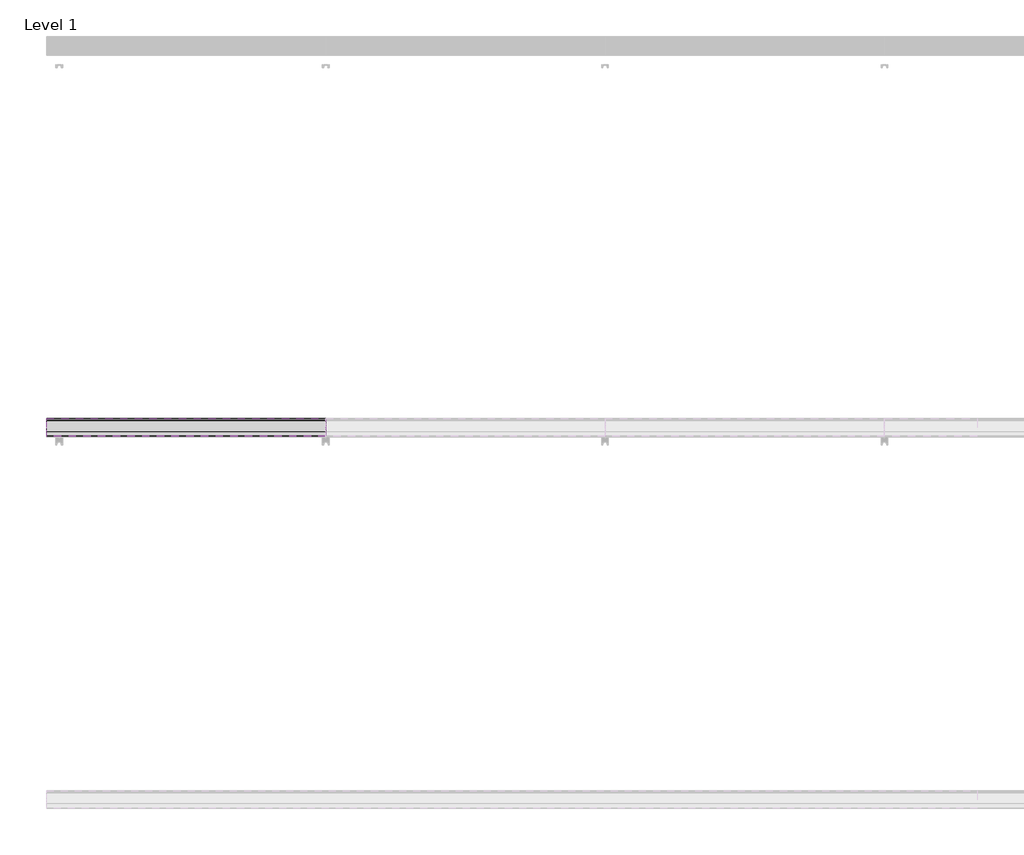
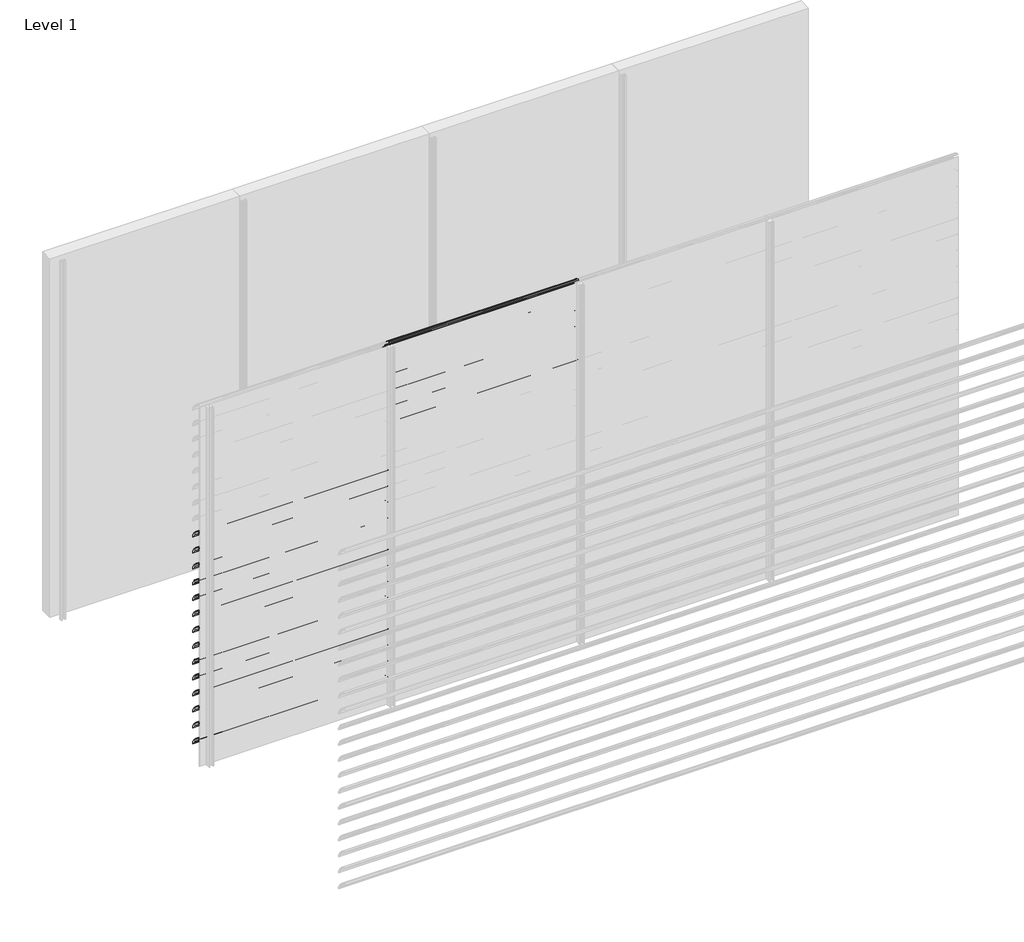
# One storey, part 43 of 57: 20 proxies.
"""IFC4 building model written with IfcOpenShell, lengths in millimetres."""

from ifc_helpers import new_model, si_unit, point, frame, frame_2d, origin, place, context, project, spatial, polyline, circle_curve, trimmed, segment, composite_curve, outline, extrude, element, save

model = new_model("IFC4")

# Units and contexts
model_context = context("Model", 3, world=origin())
ifc_project = project(units=[si_unit("LENGTHUNIT", "METRE", prefix="MILLI")], contexts=[model_context])

# Site, building, storey
site = spatial("IfcSite", under=ifc_project)
building = spatial("IfcBuilding", under=site)
storey = spatial("IfcBuildingStorey", under=building, Name="Level 1", Elevation=0.0)

# Proxies
placement = place(None, origin())
element("IfcBuildingElementProxy", 1, Name="Wall Sweeps", at=placement, inside=storey, context=model_context, shape_type="SweptSolid", body=[
    extrude(outline(composite_curve([segment(trimmed(circle_curve(frame_2d((-11993.7822526, 1952.4913792)), 4.2177474), [point((-11989.6985606, 1953.5462976))], [point((-11993.7822526, 1956.7091266))], False, "CARTESIAN"), True, "CONTINUOUS"), segment(trimmed(circle_curve(frame_2d((-12018.7150834, 1854.2536312)), 105.4456002), [point((-11993.7822526, 1956.7091266))], [point((-11971.7914298, 1948.6832099))], False, "CARTESIAN"), True, "CONTINUOUS"), segment(trimmed(circle_curve(frame_2d((-12061.7199745, 1800.0352476)), 173.7335887), [point((-11971.7914298, 1948.6832099))], [point((-11913.0720121, 1889.9637922))], False, "CARTESIAN"), True, "CONTINUOUS"), segment(trimmed(circle_curve(frame_2d((-12004.9297178, 1838.1860314)), 105.4456002), [point((-11913.0720121, 1889.9637922))], [point((-11903.6249616, 1867.4455765))], False, "CARTESIAN"), True, "CONTINUOUS"), segment(trimmed(circle_curve(frame_2d((-11907.809737, 1866.3307305)), 4.3307305), [point((-11903.6249616, 1867.4455765))], [point((-11909.0769196, 1862.189538))], False, "CARTESIAN"), True, "CONTINUOUS"), segment(polyline([(-11909.0769196, 1862.189538), (-11934.7401984, 1886.9722783)]), True, "CONTINUOUS"), segment(trimmed(circle_curve(frame_2d((-11931.3879574, 1889.2977626)), 4.079877), [point((-11934.7401984, 1886.9722783))], [point((-11930.7310597, 1893.3244091))], False, "CARTESIAN"), True, "CONTINUOUS"), segment(trimmed(circle_curve(frame_2d((-12014.6665585, 1871.2544323)), 86.7885467), [point((-11930.7310597, 1893.3244091))], [point((-11942.3028351, 1919.1683485))], True, "CARTESIAN"), True, "CONTINUOUS"), segment(polyline([(-11942.3028351, 1919.1683485), (-11940.7230099, 1921.9046861)]), True, "CONTINUOUS"), segment(trimmed(circle_curve(frame_2d((-12061.7199745, 1800.0352476)), 171.7335887), [point((-11940.7230099, 1921.9046861))], [point((-11972.7555872, 1946.9289618))], True, "CARTESIAN"), True, "CONTINUOUS"), segment(trimmed(circle_curve(frame_2d((-12018.7150834, 1854.2536312)), 103.4456002), [point((-11972.7555872, 1946.9289618))], [point((-11989.6985606, 1953.5462976))], True, "CARTESIAN"), True, "CONTINUOUS")], self_intersect=False)), frame((0.0, 0.0, 0.0), z_axis=(1.0, 0.0, 0.0), x_axis=(0.0, 1.0, 0.0)), (0.0, 0.0, 1.0), 1500.0),
])
element("IfcBuildingElementProxy", 2, Name="Wall Sweeps", at=placement, inside=storey, context=model_context, shape_type="SweptSolid", body=[
    extrude(outline(composite_curve([segment(trimmed(circle_curve(frame_2d((-11993.7822526, 1819.4913792)), 4.2177474), [point((-11989.6985606, 1820.5462976))], [point((-11993.7822526, 1823.7091266))], False, "CARTESIAN"), True, "CONTINUOUS"), segment(trimmed(circle_curve(frame_2d((-12018.7150834, 1721.2536312)), 105.4456002), [point((-11993.7822526, 1823.7091266))], [point((-11971.7914298, 1815.6832099))], False, "CARTESIAN"), True, "CONTINUOUS"), segment(trimmed(circle_curve(frame_2d((-12061.7199745, 1667.0352476)), 173.7335887), [point((-11971.7914298, 1815.6832099))], [point((-11913.0720121, 1756.9637922))], False, "CARTESIAN"), True, "CONTINUOUS"), segment(trimmed(circle_curve(frame_2d((-12004.9297178, 1705.1860314)), 105.4456002), [point((-11913.0720121, 1756.9637922))], [point((-11903.6249616, 1734.4455765))], False, "CARTESIAN"), True, "CONTINUOUS"), segment(trimmed(circle_curve(frame_2d((-11907.809737, 1733.3307305)), 4.3307305), [point((-11903.6249616, 1734.4455765))], [point((-11909.0769196, 1729.189538))], False, "CARTESIAN"), True, "CONTINUOUS"), segment(polyline([(-11909.0769196, 1729.189538), (-11934.7401984, 1753.9722783)]), True, "CONTINUOUS"), segment(trimmed(circle_curve(frame_2d((-11931.3879574, 1756.2977626)), 4.079877), [point((-11934.7401984, 1753.9722783))], [point((-11930.7310597, 1760.3244091))], False, "CARTESIAN"), True, "CONTINUOUS"), segment(trimmed(circle_curve(frame_2d((-12014.6665585, 1738.2544323)), 86.7885467), [point((-11930.7310597, 1760.3244091))], [point((-11942.3028351, 1786.1683485))], True, "CARTESIAN"), True, "CONTINUOUS"), segment(polyline([(-11942.3028351, 1786.1683485), (-11940.7230099, 1788.9046861)]), True, "CONTINUOUS"), segment(trimmed(circle_curve(frame_2d((-12061.7199745, 1667.0352476)), 171.7335887), [point((-11940.7230099, 1788.9046861))], [point((-11972.7555872, 1813.9289618))], True, "CARTESIAN"), True, "CONTINUOUS"), segment(trimmed(circle_curve(frame_2d((-12018.7150834, 1721.2536312)), 103.4456002), [point((-11972.7555872, 1813.9289618))], [point((-11989.6985606, 1820.5462976))], True, "CARTESIAN"), True, "CONTINUOUS")], self_intersect=False)), frame((0.0, 0.0, 0.0), z_axis=(1.0, 0.0, 0.0), x_axis=(0.0, 1.0, 0.0)), (0.0, 0.0, 1.0), 1500.0),
])
element("IfcBuildingElementProxy", 3, Name="Wall Sweeps", at=placement, inside=storey, context=model_context, shape_type="SweptSolid", body=[
    extrude(outline(composite_curve([segment(trimmed(circle_curve(frame_2d((-11993.7822526, 1686.4913792)), 4.2177474), [point((-11989.6985606, 1687.5462976))], [point((-11993.7822526, 1690.7091266))], False, "CARTESIAN"), True, "CONTINUOUS"), segment(trimmed(circle_curve(frame_2d((-12018.7150834, 1588.2536312)), 105.4456002), [point((-11993.7822526, 1690.7091266))], [point((-11971.7914298, 1682.6832099))], False, "CARTESIAN"), True, "CONTINUOUS"), segment(trimmed(circle_curve(frame_2d((-12061.7199745, 1534.0352476)), 173.7335887), [point((-11971.7914298, 1682.6832099))], [point((-11913.0720121, 1623.9637922))], False, "CARTESIAN"), True, "CONTINUOUS"), segment(trimmed(circle_curve(frame_2d((-12004.9297178, 1572.1860314)), 105.4456002), [point((-11913.0720121, 1623.9637922))], [point((-11903.6249616, 1601.4455765))], False, "CARTESIAN"), True, "CONTINUOUS"), segment(trimmed(circle_curve(frame_2d((-11907.809737, 1600.3307305)), 4.3307305), [point((-11903.6249616, 1601.4455765))], [point((-11909.0769196, 1596.189538))], False, "CARTESIAN"), True, "CONTINUOUS"), segment(polyline([(-11909.0769196, 1596.189538), (-11934.7401984, 1620.9722783)]), True, "CONTINUOUS"), segment(trimmed(circle_curve(frame_2d((-11931.3879574, 1623.2977626)), 4.079877), [point((-11934.7401984, 1620.9722783))], [point((-11930.7310597, 1627.3244091))], False, "CARTESIAN"), True, "CONTINUOUS"), segment(trimmed(circle_curve(frame_2d((-12014.6665585, 1605.2544323)), 86.7885467), [point((-11930.7310597, 1627.3244091))], [point((-11942.3028351, 1653.1683485))], True, "CARTESIAN"), True, "CONTINUOUS"), segment(polyline([(-11942.3028351, 1653.1683485), (-11940.7230099, 1655.9046861)]), True, "CONTINUOUS"), segment(trimmed(circle_curve(frame_2d((-12061.7199745, 1534.0352476)), 171.7335887), [point((-11940.7230099, 1655.9046861))], [point((-11972.7555872, 1680.9289618))], True, "CARTESIAN"), True, "CONTINUOUS"), segment(trimmed(circle_curve(frame_2d((-12018.7150834, 1588.2536312)), 103.4456002), [point((-11972.7555872, 1680.9289618))], [point((-11989.6985606, 1687.5462976))], True, "CARTESIAN"), True, "CONTINUOUS")], self_intersect=False)), frame((0.0, 0.0, 0.0), z_axis=(1.0, 0.0, 0.0), x_axis=(0.0, 1.0, 0.0)), (0.0, 0.0, 1.0), 1500.0),
])
element("IfcBuildingElementProxy", 4, Name="Wall Sweeps", at=placement, inside=storey, context=model_context, shape_type="SweptSolid", body=[
    extrude(outline(composite_curve([segment(trimmed(circle_curve(frame_2d((-11993.7822526, 1553.4913792)), 4.2177474), [point((-11989.6985606, 1554.5462976))], [point((-11993.7822526, 1557.7091266))], False, "CARTESIAN"), True, "CONTINUOUS"), segment(trimmed(circle_curve(frame_2d((-12018.7150834, 1455.2536312)), 105.4456002), [point((-11993.7822526, 1557.7091266))], [point((-11971.7914298, 1549.6832099))], False, "CARTESIAN"), True, "CONTINUOUS"), segment(trimmed(circle_curve(frame_2d((-12061.7199745, 1401.0352476)), 173.7335887), [point((-11971.7914298, 1549.6832099))], [point((-11913.0720121, 1490.9637922))], False, "CARTESIAN"), True, "CONTINUOUS"), segment(trimmed(circle_curve(frame_2d((-12004.9297178, 1439.1860314)), 105.4456002), [point((-11913.0720121, 1490.9637922))], [point((-11903.6249616, 1468.4455765))], False, "CARTESIAN"), True, "CONTINUOUS"), segment(trimmed(circle_curve(frame_2d((-11907.809737, 1467.3307305)), 4.3307305), [point((-11903.6249616, 1468.4455765))], [point((-11909.0769196, 1463.189538))], False, "CARTESIAN"), True, "CONTINUOUS"), segment(polyline([(-11909.0769196, 1463.189538), (-11934.7401984, 1487.9722783)]), True, "CONTINUOUS"), segment(trimmed(circle_curve(frame_2d((-11931.3879574, 1490.2977626)), 4.079877), [point((-11934.7401984, 1487.9722783))], [point((-11930.7310597, 1494.3244091))], False, "CARTESIAN"), True, "CONTINUOUS"), segment(trimmed(circle_curve(frame_2d((-12014.6665585, 1472.2544323)), 86.7885467), [point((-11930.7310597, 1494.3244091))], [point((-11942.3028351, 1520.1683485))], True, "CARTESIAN"), True, "CONTINUOUS"), segment(polyline([(-11942.3028351, 1520.1683485), (-11940.7230099, 1522.9046861)]), True, "CONTINUOUS"), segment(trimmed(circle_curve(frame_2d((-12061.7199745, 1401.0352476)), 171.7335887), [point((-11940.7230099, 1522.9046861))], [point((-11972.7555872, 1547.9289618))], True, "CARTESIAN"), True, "CONTINUOUS"), segment(trimmed(circle_curve(frame_2d((-12018.7150834, 1455.2536312)), 103.4456002), [point((-11972.7555872, 1547.9289618))], [point((-11989.6985606, 1554.5462976))], True, "CARTESIAN"), True, "CONTINUOUS")], self_intersect=False)), frame((0.0, 0.0, 0.0), z_axis=(1.0, 0.0, 0.0), x_axis=(0.0, 1.0, 0.0)), (0.0, 0.0, 1.0), 1500.0),
])
element("IfcBuildingElementProxy", 5, Name="Wall Sweeps", at=placement, inside=storey, context=model_context, shape_type="SweptSolid", body=[
    extrude(outline(composite_curve([segment(trimmed(circle_curve(frame_2d((-11993.7822526, 1420.4913792)), 4.2177474), [point((-11989.6985606, 1421.5462976))], [point((-11993.7822526, 1424.7091266))], False, "CARTESIAN"), True, "CONTINUOUS"), segment(trimmed(circle_curve(frame_2d((-12018.7150834, 1322.2536312)), 105.4456002), [point((-11993.7822526, 1424.7091266))], [point((-11971.7914298, 1416.6832099))], False, "CARTESIAN"), True, "CONTINUOUS"), segment(trimmed(circle_curve(frame_2d((-12061.7199745, 1268.0352476)), 173.7335887), [point((-11971.7914298, 1416.6832099))], [point((-11913.0720121, 1357.9637922))], False, "CARTESIAN"), True, "CONTINUOUS"), segment(trimmed(circle_curve(frame_2d((-12004.9297178, 1306.1860314)), 105.4456002), [point((-11913.0720121, 1357.9637922))], [point((-11903.6249616, 1335.4455765))], False, "CARTESIAN"), True, "CONTINUOUS"), segment(trimmed(circle_curve(frame_2d((-11907.809737, 1334.3307305)), 4.3307305), [point((-11903.6249616, 1335.4455765))], [point((-11909.0769196, 1330.189538))], False, "CARTESIAN"), True, "CONTINUOUS"), segment(polyline([(-11909.0769196, 1330.189538), (-11934.7401984, 1354.9722783)]), True, "CONTINUOUS"), segment(trimmed(circle_curve(frame_2d((-11931.3879574, 1357.2977626)), 4.079877), [point((-11934.7401984, 1354.9722783))], [point((-11930.7310597, 1361.3244091))], False, "CARTESIAN"), True, "CONTINUOUS"), segment(trimmed(circle_curve(frame_2d((-12014.6665585, 1339.2544323)), 86.7885467), [point((-11930.7310597, 1361.3244091))], [point((-11942.3028351, 1387.1683485))], True, "CARTESIAN"), True, "CONTINUOUS"), segment(polyline([(-11942.3028351, 1387.1683485), (-11940.7230099, 1389.9046861)]), True, "CONTINUOUS"), segment(trimmed(circle_curve(frame_2d((-12061.7199745, 1268.0352476)), 171.7335887), [point((-11940.7230099, 1389.9046861))], [point((-11972.7555872, 1414.9289618))], True, "CARTESIAN"), True, "CONTINUOUS"), segment(trimmed(circle_curve(frame_2d((-12018.7150834, 1322.2536312)), 103.4456002), [point((-11972.7555872, 1414.9289618))], [point((-11989.6985606, 1421.5462976))], True, "CARTESIAN"), True, "CONTINUOUS")], self_intersect=False)), frame((0.0, 0.0, 0.0), z_axis=(1.0, 0.0, 0.0), x_axis=(0.0, 1.0, 0.0)), (0.0, 0.0, 1.0), 1500.0),
])
element("IfcBuildingElementProxy", 6, Name="Wall Sweeps", at=placement, inside=storey, context=model_context, shape_type="SweptSolid", body=[
    extrude(outline(composite_curve([segment(trimmed(circle_curve(frame_2d((-11993.7822526, 1287.4913792)), 4.2177474), [point((-11989.6985606, 1288.5462976))], [point((-11993.7822526, 1291.7091266))], False, "CARTESIAN"), True, "CONTINUOUS"), segment(trimmed(circle_curve(frame_2d((-12018.7150834, 1189.2536312)), 105.4456002), [point((-11993.7822526, 1291.7091266))], [point((-11971.7914298, 1283.6832099))], False, "CARTESIAN"), True, "CONTINUOUS"), segment(trimmed(circle_curve(frame_2d((-12061.7199745, 1135.0352476)), 173.7335887), [point((-11971.7914298, 1283.6832099))], [point((-11913.0720121, 1224.9637922))], False, "CARTESIAN"), True, "CONTINUOUS"), segment(trimmed(circle_curve(frame_2d((-12004.9297178, 1173.1860314)), 105.4456002), [point((-11913.0720121, 1224.9637922))], [point((-11903.6249616, 1202.4455765))], False, "CARTESIAN"), True, "CONTINUOUS"), segment(trimmed(circle_curve(frame_2d((-11907.809737, 1201.3307305)), 4.3307305), [point((-11903.6249616, 1202.4455765))], [point((-11909.0769196, 1197.189538))], False, "CARTESIAN"), True, "CONTINUOUS"), segment(polyline([(-11909.0769196, 1197.189538), (-11934.7401984, 1221.9722783)]), True, "CONTINUOUS"), segment(trimmed(circle_curve(frame_2d((-11931.3879574, 1224.2977626)), 4.079877), [point((-11934.7401984, 1221.9722783))], [point((-11930.7310597, 1228.3244091))], False, "CARTESIAN"), True, "CONTINUOUS"), segment(trimmed(circle_curve(frame_2d((-12014.6665585, 1206.2544323)), 86.7885467), [point((-11930.7310597, 1228.3244091))], [point((-11942.3028351, 1254.1683485))], True, "CARTESIAN"), True, "CONTINUOUS"), segment(polyline([(-11942.3028351, 1254.1683485), (-11940.7230099, 1256.9046861)]), True, "CONTINUOUS"), segment(trimmed(circle_curve(frame_2d((-12061.7199745, 1135.0352476)), 171.7335887), [point((-11940.7230099, 1256.9046861))], [point((-11972.7555872, 1281.9289618))], True, "CARTESIAN"), True, "CONTINUOUS"), segment(trimmed(circle_curve(frame_2d((-12018.7150834, 1189.2536312)), 103.4456002), [point((-11972.7555872, 1281.9289618))], [point((-11989.6985606, 1288.5462976))], True, "CARTESIAN"), True, "CONTINUOUS")], self_intersect=False)), frame((0.0, 0.0, 0.0), z_axis=(1.0, 0.0, 0.0), x_axis=(0.0, 1.0, 0.0)), (0.0, 0.0, 1.0), 1500.0),
])
element("IfcBuildingElementProxy", 7, Name="Wall Sweeps", at=placement, inside=storey, context=model_context, shape_type="SweptSolid", body=[
    extrude(outline(composite_curve([segment(trimmed(circle_curve(frame_2d((-11993.7822526, 1154.4913792)), 4.2177474), [point((-11989.6985606, 1155.5462976))], [point((-11993.7822526, 1158.7091266))], False, "CARTESIAN"), True, "CONTINUOUS"), segment(trimmed(circle_curve(frame_2d((-12018.7150834, 1056.2536312)), 105.4456002), [point((-11993.7822526, 1158.7091266))], [point((-11971.7914298, 1150.6832099))], False, "CARTESIAN"), True, "CONTINUOUS"), segment(trimmed(circle_curve(frame_2d((-12061.7199745, 1002.0352476)), 173.7335887), [point((-11971.7914298, 1150.6832099))], [point((-11913.0720121, 1091.9637922))], False, "CARTESIAN"), True, "CONTINUOUS"), segment(trimmed(circle_curve(frame_2d((-12004.9297178, 1040.1860314)), 105.4456002), [point((-11913.0720121, 1091.9637922))], [point((-11903.6249616, 1069.4455765))], False, "CARTESIAN"), True, "CONTINUOUS"), segment(trimmed(circle_curve(frame_2d((-11907.809737, 1068.3307305)), 4.3307305), [point((-11903.6249616, 1069.4455765))], [point((-11909.0769196, 1064.189538))], False, "CARTESIAN"), True, "CONTINUOUS"), segment(polyline([(-11909.0769196, 1064.189538), (-11934.7401984, 1088.9722783)]), True, "CONTINUOUS"), segment(trimmed(circle_curve(frame_2d((-11931.3879574, 1091.2977626)), 4.079877), [point((-11934.7401984, 1088.9722783))], [point((-11930.7310597, 1095.3244091))], False, "CARTESIAN"), True, "CONTINUOUS"), segment(trimmed(circle_curve(frame_2d((-12014.6665585, 1073.2544323)), 86.7885467), [point((-11930.7310597, 1095.3244091))], [point((-11942.3028351, 1121.1683485))], True, "CARTESIAN"), True, "CONTINUOUS"), segment(polyline([(-11942.3028351, 1121.1683485), (-11940.7230099, 1123.9046861)]), True, "CONTINUOUS"), segment(trimmed(circle_curve(frame_2d((-12061.7199745, 1002.0352476)), 171.7335887), [point((-11940.7230099, 1123.9046861))], [point((-11972.7555872, 1148.9289618))], True, "CARTESIAN"), True, "CONTINUOUS"), segment(trimmed(circle_curve(frame_2d((-12018.7150834, 1056.2536312)), 103.4456002), [point((-11972.7555872, 1148.9289618))], [point((-11989.6985606, 1155.5462976))], True, "CARTESIAN"), True, "CONTINUOUS")], self_intersect=False)), frame((0.0, 0.0, 0.0), z_axis=(1.0, 0.0, 0.0), x_axis=(0.0, 1.0, 0.0)), (0.0, 0.0, 1.0), 1500.0),
])
element("IfcBuildingElementProxy", 8, Name="Wall Sweeps", at=placement, inside=storey, context=model_context, shape_type="SweptSolid", body=[
    extrude(outline(composite_curve([segment(trimmed(circle_curve(frame_2d((-11993.7822526, 1021.4913792)), 4.2177474), [point((-11989.6985606, 1022.5462976))], [point((-11993.7822526, 1025.7091266))], False, "CARTESIAN"), True, "CONTINUOUS"), segment(trimmed(circle_curve(frame_2d((-12018.7150834, 923.2536312)), 105.4456002), [point((-11993.7822526, 1025.7091266))], [point((-11971.7914298, 1017.6832099))], False, "CARTESIAN"), True, "CONTINUOUS"), segment(trimmed(circle_curve(frame_2d((-12061.7199745, 869.0352476)), 173.7335887), [point((-11971.7914298, 1017.6832099))], [point((-11913.0720121, 958.9637922))], False, "CARTESIAN"), True, "CONTINUOUS"), segment(trimmed(circle_curve(frame_2d((-12004.9297178, 907.1860314)), 105.4456002), [point((-11913.0720121, 958.9637922))], [point((-11903.6249616, 936.4455765))], False, "CARTESIAN"), True, "CONTINUOUS"), segment(trimmed(circle_curve(frame_2d((-11907.809737, 935.3307305)), 4.3307305), [point((-11903.6249616, 936.4455765))], [point((-11909.0769196, 931.189538))], False, "CARTESIAN"), True, "CONTINUOUS"), segment(polyline([(-11909.0769196, 931.189538), (-11934.7401984, 955.9722783)]), True, "CONTINUOUS"), segment(trimmed(circle_curve(frame_2d((-11931.3879574, 958.2977626)), 4.079877), [point((-11934.7401984, 955.9722783))], [point((-11930.7310597, 962.3244091))], False, "CARTESIAN"), True, "CONTINUOUS"), segment(trimmed(circle_curve(frame_2d((-12014.6665585, 940.2544323)), 86.7885467), [point((-11930.7310597, 962.3244091))], [point((-11942.3028351, 988.1683485))], True, "CARTESIAN"), True, "CONTINUOUS"), segment(polyline([(-11942.3028351, 988.1683485), (-11940.7230099, 990.9046861)]), True, "CONTINUOUS"), segment(trimmed(circle_curve(frame_2d((-12061.7199745, 869.0352476)), 171.7335887), [point((-11940.7230099, 990.9046861))], [point((-11972.7555872, 1015.9289618))], True, "CARTESIAN"), True, "CONTINUOUS"), segment(trimmed(circle_curve(frame_2d((-12018.7150834, 923.2536312)), 103.4456002), [point((-11972.7555872, 1015.9289618))], [point((-11989.6985606, 1022.5462976))], True, "CARTESIAN"), True, "CONTINUOUS")], self_intersect=False)), frame((0.0, 0.0, 0.0), z_axis=(1.0, 0.0, 0.0), x_axis=(0.0, 1.0, 0.0)), (0.0, 0.0, 1.0), 1500.0),
])
element("IfcBuildingElementProxy", 9, Name="Wall Sweeps", at=placement, inside=storey, context=model_context, shape_type="SweptSolid", body=[
    extrude(outline(composite_curve([segment(trimmed(circle_curve(frame_2d((-11993.7822526, 888.4913792)), 4.2177474), [point((-11989.6985606, 889.5462976))], [point((-11993.7822526, 892.7091266))], False, "CARTESIAN"), True, "CONTINUOUS"), segment(trimmed(circle_curve(frame_2d((-12018.7150834, 790.2536312)), 105.4456002), [point((-11993.7822526, 892.7091266))], [point((-11971.7914298, 884.6832099))], False, "CARTESIAN"), True, "CONTINUOUS"), segment(trimmed(circle_curve(frame_2d((-12061.7199745, 736.0352476)), 173.7335887), [point((-11971.7914298, 884.6832099))], [point((-11913.0720121, 825.9637922))], False, "CARTESIAN"), True, "CONTINUOUS"), segment(trimmed(circle_curve(frame_2d((-12004.9297178, 774.1860314)), 105.4456002), [point((-11913.0720121, 825.9637922))], [point((-11903.6249616, 803.4455765))], False, "CARTESIAN"), True, "CONTINUOUS"), segment(trimmed(circle_curve(frame_2d((-11907.809737, 802.3307305)), 4.3307305), [point((-11903.6249616, 803.4455765))], [point((-11909.0769196, 798.189538))], False, "CARTESIAN"), True, "CONTINUOUS"), segment(polyline([(-11909.0769196, 798.189538), (-11934.7401984, 822.9722783)]), True, "CONTINUOUS"), segment(trimmed(circle_curve(frame_2d((-11931.3879574, 825.2977626)), 4.079877), [point((-11934.7401984, 822.9722783))], [point((-11930.7310597, 829.3244091))], False, "CARTESIAN"), True, "CONTINUOUS"), segment(trimmed(circle_curve(frame_2d((-12014.6665585, 807.2544323)), 86.7885467), [point((-11930.7310597, 829.3244091))], [point((-11942.3028351, 855.1683485))], True, "CARTESIAN"), True, "CONTINUOUS"), segment(polyline([(-11942.3028351, 855.1683485), (-11940.7230099, 857.9046861)]), True, "CONTINUOUS"), segment(trimmed(circle_curve(frame_2d((-12061.7199745, 736.0352476)), 171.7335887), [point((-11940.7230099, 857.9046861))], [point((-11972.7555872, 882.9289618))], True, "CARTESIAN"), True, "CONTINUOUS"), segment(trimmed(circle_curve(frame_2d((-12018.7150834, 790.2536312)), 103.4456002), [point((-11972.7555872, 882.9289618))], [point((-11989.6985606, 889.5462976))], True, "CARTESIAN"), True, "CONTINUOUS")], self_intersect=False)), frame((0.0, 0.0, 0.0), z_axis=(1.0, 0.0, 0.0), x_axis=(0.0, 1.0, 0.0)), (0.0, 0.0, 1.0), 1500.0),
])
element("IfcBuildingElementProxy", 10, Name="Wall Sweeps", at=placement, inside=storey, context=model_context, shape_type="SweptSolid", body=[
    extrude(outline(composite_curve([segment(trimmed(circle_curve(frame_2d((-11993.7822526, 755.4913792)), 4.2177474), [point((-11989.6985606, 756.5462976))], [point((-11993.7822526, 759.7091266))], False, "CARTESIAN"), True, "CONTINUOUS"), segment(trimmed(circle_curve(frame_2d((-12018.7150834, 657.2536312)), 105.4456002), [point((-11993.7822526, 759.7091266))], [point((-11971.7914298, 751.6832099))], False, "CARTESIAN"), True, "CONTINUOUS"), segment(trimmed(circle_curve(frame_2d((-12061.7199745, 603.0352476)), 173.7335887), [point((-11971.7914298, 751.6832099))], [point((-11913.0720121, 692.9637922))], False, "CARTESIAN"), True, "CONTINUOUS"), segment(trimmed(circle_curve(frame_2d((-12004.9297178, 641.1860314)), 105.4456002), [point((-11913.0720121, 692.9637922))], [point((-11903.6249616, 670.4455765))], False, "CARTESIAN"), True, "CONTINUOUS"), segment(trimmed(circle_curve(frame_2d((-11907.809737, 669.3307305)), 4.3307305), [point((-11903.6249616, 670.4455765))], [point((-11909.0769196, 665.189538))], False, "CARTESIAN"), True, "CONTINUOUS"), segment(polyline([(-11909.0769196, 665.189538), (-11934.7401984, 689.9722783)]), True, "CONTINUOUS"), segment(trimmed(circle_curve(frame_2d((-11931.3879574, 692.2977626)), 4.079877), [point((-11934.7401984, 689.9722783))], [point((-11930.7310597, 696.3244091))], False, "CARTESIAN"), True, "CONTINUOUS"), segment(trimmed(circle_curve(frame_2d((-12014.6665585, 674.2544323)), 86.7885467), [point((-11930.7310597, 696.3244091))], [point((-11942.3028351, 722.1683485))], True, "CARTESIAN"), True, "CONTINUOUS"), segment(polyline([(-11942.3028351, 722.1683485), (-11940.7230099, 724.9046861)]), True, "CONTINUOUS"), segment(trimmed(circle_curve(frame_2d((-12061.7199745, 603.0352476)), 171.7335887), [point((-11940.7230099, 724.9046861))], [point((-11972.7555872, 749.9289618))], True, "CARTESIAN"), True, "CONTINUOUS"), segment(trimmed(circle_curve(frame_2d((-12018.7150834, 657.2536312)), 103.4456002), [point((-11972.7555872, 749.9289618))], [point((-11989.6985606, 756.5462976))], True, "CARTESIAN"), True, "CONTINUOUS")], self_intersect=False)), frame((0.0, 0.0, 0.0), z_axis=(1.0, 0.0, 0.0), x_axis=(0.0, 1.0, 0.0)), (0.0, 0.0, 1.0), 1500.0),
])
element("IfcBuildingElementProxy", 11, Name="Wall Sweeps", at=placement, inside=storey, context=model_context, shape_type="SweptSolid", body=[
    extrude(outline(composite_curve([segment(trimmed(circle_curve(frame_2d((-11993.7822526, 622.4913792)), 4.2177474), [point((-11989.6985606, 623.5462976))], [point((-11993.7822526, 626.7091266))], False, "CARTESIAN"), True, "CONTINUOUS"), segment(trimmed(circle_curve(frame_2d((-12018.7150834, 524.2536312)), 105.4456002), [point((-11993.7822526, 626.7091266))], [point((-11971.7914298, 618.6832099))], False, "CARTESIAN"), True, "CONTINUOUS"), segment(trimmed(circle_curve(frame_2d((-12061.7199745, 470.0352476)), 173.7335887), [point((-11971.7914298, 618.6832099))], [point((-11913.0720121, 559.9637922))], False, "CARTESIAN"), True, "CONTINUOUS"), segment(trimmed(circle_curve(frame_2d((-12004.9297178, 508.1860314)), 105.4456002), [point((-11913.0720121, 559.9637922))], [point((-11903.6249616, 537.4455765))], False, "CARTESIAN"), True, "CONTINUOUS"), segment(trimmed(circle_curve(frame_2d((-11907.809737, 536.3307305)), 4.3307305), [point((-11903.6249616, 537.4455765))], [point((-11909.0769196, 532.189538))], False, "CARTESIAN"), True, "CONTINUOUS"), segment(polyline([(-11909.0769196, 532.189538), (-11934.7401984, 556.9722783)]), True, "CONTINUOUS"), segment(trimmed(circle_curve(frame_2d((-11931.3879574, 559.2977626)), 4.079877), [point((-11934.7401984, 556.9722783))], [point((-11930.7310597, 563.3244091))], False, "CARTESIAN"), True, "CONTINUOUS"), segment(trimmed(circle_curve(frame_2d((-12014.6665585, 541.2544323)), 86.7885467), [point((-11930.7310597, 563.3244091))], [point((-11942.3028351, 589.1683485))], True, "CARTESIAN"), True, "CONTINUOUS"), segment(polyline([(-11942.3028351, 589.1683485), (-11940.7230099, 591.9046861)]), True, "CONTINUOUS"), segment(trimmed(circle_curve(frame_2d((-12061.7199745, 470.0352476)), 171.7335887), [point((-11940.7230099, 591.9046861))], [point((-11972.7555872, 616.9289618))], True, "CARTESIAN"), True, "CONTINUOUS"), segment(trimmed(circle_curve(frame_2d((-12018.7150834, 524.2536312)), 103.4456002), [point((-11972.7555872, 616.9289618))], [point((-11989.6985606, 623.5462976))], True, "CARTESIAN"), True, "CONTINUOUS")], self_intersect=False)), frame((0.0, 0.0, 0.0), z_axis=(1.0, 0.0, 0.0), x_axis=(0.0, 1.0, 0.0)), (0.0, 0.0, 1.0), 1500.0),
])
element("IfcBuildingElementProxy", 12, Name="Wall Sweeps", at=placement, inside=storey, context=model_context, shape_type="SweptSolid", body=[
    extrude(outline(composite_curve([segment(trimmed(circle_curve(frame_2d((-11993.7822526, 489.4913792)), 4.2177474), [point((-11989.6985606, 490.5462976))], [point((-11993.7822526, 493.7091266))], False, "CARTESIAN"), True, "CONTINUOUS"), segment(trimmed(circle_curve(frame_2d((-12018.7150834, 391.2536312)), 105.4456002), [point((-11993.7822526, 493.7091266))], [point((-11971.7914298, 485.6832099))], False, "CARTESIAN"), True, "CONTINUOUS"), segment(trimmed(circle_curve(frame_2d((-12061.7199745, 337.0352476)), 173.7335887), [point((-11971.7914298, 485.6832099))], [point((-11913.0720121, 426.9637922))], False, "CARTESIAN"), True, "CONTINUOUS"), segment(trimmed(circle_curve(frame_2d((-12004.9297178, 375.1860314)), 105.4456002), [point((-11913.0720121, 426.9637922))], [point((-11903.6249616, 404.4455765))], False, "CARTESIAN"), True, "CONTINUOUS"), segment(trimmed(circle_curve(frame_2d((-11907.809737, 403.3307305)), 4.3307305), [point((-11903.6249616, 404.4455765))], [point((-11909.0769196, 399.189538))], False, "CARTESIAN"), True, "CONTINUOUS"), segment(polyline([(-11909.0769196, 399.189538), (-11934.7401984, 423.9722783)]), True, "CONTINUOUS"), segment(trimmed(circle_curve(frame_2d((-11931.3879574, 426.2977626)), 4.079877), [point((-11934.7401984, 423.9722783))], [point((-11930.7310597, 430.3244091))], False, "CARTESIAN"), True, "CONTINUOUS"), segment(trimmed(circle_curve(frame_2d((-12014.6665585, 408.2544323)), 86.7885467), [point((-11930.7310597, 430.3244091))], [point((-11942.3028351, 456.1683485))], True, "CARTESIAN"), True, "CONTINUOUS"), segment(polyline([(-11942.3028351, 456.1683485), (-11940.7230099, 458.9046861)]), True, "CONTINUOUS"), segment(trimmed(circle_curve(frame_2d((-12061.7199745, 337.0352476)), 171.7335887), [point((-11940.7230099, 458.9046861))], [point((-11972.7555872, 483.9289618))], True, "CARTESIAN"), True, "CONTINUOUS"), segment(trimmed(circle_curve(frame_2d((-12018.7150834, 391.2536312)), 103.4456002), [point((-11972.7555872, 483.9289618))], [point((-11989.6985606, 490.5462976))], True, "CARTESIAN"), True, "CONTINUOUS")], self_intersect=False)), frame((0.0, 0.0, 0.0), z_axis=(1.0, 0.0, 0.0), x_axis=(0.0, 1.0, 0.0)), (0.0, 0.0, 1.0), 1500.0),
])
element("IfcBuildingElementProxy", 13, Name="Wall Sweeps", at=placement, inside=storey, context=model_context, shape_type="SweptSolid", body=[
    extrude(outline(composite_curve([segment(trimmed(circle_curve(frame_2d((-11993.7822526, 356.4913792)), 4.2177474), [point((-11989.6985606, 357.5462976))], [point((-11993.7822526, 360.7091266))], False, "CARTESIAN"), True, "CONTINUOUS"), segment(trimmed(circle_curve(frame_2d((-12018.7150834, 258.2536312)), 105.4456002), [point((-11993.7822526, 360.7091266))], [point((-11971.7914298, 352.6832099))], False, "CARTESIAN"), True, "CONTINUOUS"), segment(trimmed(circle_curve(frame_2d((-12061.7199745, 204.0352476)), 173.7335887), [point((-11971.7914298, 352.6832099))], [point((-11913.0720121, 293.9637922))], False, "CARTESIAN"), True, "CONTINUOUS"), segment(trimmed(circle_curve(frame_2d((-12004.9297178, 242.1860314)), 105.4456002), [point((-11913.0720121, 293.9637922))], [point((-11903.6249616, 271.4455765))], False, "CARTESIAN"), True, "CONTINUOUS"), segment(trimmed(circle_curve(frame_2d((-11907.809737, 270.3307305)), 4.3307305), [point((-11903.6249616, 271.4455765))], [point((-11909.0769196, 266.189538))], False, "CARTESIAN"), True, "CONTINUOUS"), segment(polyline([(-11909.0769196, 266.189538), (-11934.7401984, 290.9722783)]), True, "CONTINUOUS"), segment(trimmed(circle_curve(frame_2d((-11931.3879574, 293.2977626)), 4.079877), [point((-11934.7401984, 290.9722783))], [point((-11930.7310597, 297.3244091))], False, "CARTESIAN"), True, "CONTINUOUS"), segment(trimmed(circle_curve(frame_2d((-12014.6665585, 275.2544323)), 86.7885467), [point((-11930.7310597, 297.3244091))], [point((-11942.3028351, 323.1683485))], True, "CARTESIAN"), True, "CONTINUOUS"), segment(polyline([(-11942.3028351, 323.1683485), (-11940.7230099, 325.9046861)]), True, "CONTINUOUS"), segment(trimmed(circle_curve(frame_2d((-12061.7199745, 204.0352476)), 171.7335887), [point((-11940.7230099, 325.9046861))], [point((-11972.7555872, 350.9289618))], True, "CARTESIAN"), True, "CONTINUOUS"), segment(trimmed(circle_curve(frame_2d((-12018.7150834, 258.2536312)), 103.4456002), [point((-11972.7555872, 350.9289618))], [point((-11989.6985606, 357.5462976))], True, "CARTESIAN"), True, "CONTINUOUS")], self_intersect=False)), frame((0.0, 0.0, 0.0), z_axis=(1.0, 0.0, 0.0), x_axis=(0.0, 1.0, 0.0)), (0.0, 0.0, 1.0), 1500.0),
])
element("IfcBuildingElementProxy", 14, Name="Wall Sweeps", at=placement, inside=storey, context=model_context, shape_type="SweptSolid", body=[
    extrude(outline(composite_curve([segment(trimmed(circle_curve(frame_2d((-11993.7822526, 223.4913792)), 4.2177474), [point((-11989.6985606, 224.5462976))], [point((-11993.7822526, 227.7091266))], False, "CARTESIAN"), True, "CONTINUOUS"), segment(trimmed(circle_curve(frame_2d((-12018.7150834, 125.2536312)), 105.4456002), [point((-11993.7822526, 227.7091266))], [point((-11971.7914298, 219.6832099))], False, "CARTESIAN"), True, "CONTINUOUS"), segment(trimmed(circle_curve(frame_2d((-12061.7199745, 71.0352476)), 173.7335887), [point((-11971.7914298, 219.6832099))], [point((-11913.0720121, 160.9637922))], False, "CARTESIAN"), True, "CONTINUOUS"), segment(trimmed(circle_curve(frame_2d((-12004.9297178, 109.1860314)), 105.4456002), [point((-11913.0720121, 160.9637922))], [point((-11903.6249616, 138.4455765))], False, "CARTESIAN"), True, "CONTINUOUS"), segment(trimmed(circle_curve(frame_2d((-11907.809737, 137.3307305)), 4.3307305), [point((-11903.6249616, 138.4455765))], [point((-11909.0769196, 133.189538))], False, "CARTESIAN"), True, "CONTINUOUS"), segment(polyline([(-11909.0769196, 133.189538), (-11934.7401984, 157.9722783)]), True, "CONTINUOUS"), segment(trimmed(circle_curve(frame_2d((-11931.3879574, 160.2977626)), 4.079877), [point((-11934.7401984, 157.9722783))], [point((-11930.7310597, 164.3244091))], False, "CARTESIAN"), True, "CONTINUOUS"), segment(trimmed(circle_curve(frame_2d((-12014.6665585, 142.2544323)), 86.7885467), [point((-11930.7310597, 164.3244091))], [point((-11942.3028351, 190.1683485))], True, "CARTESIAN"), True, "CONTINUOUS"), segment(polyline([(-11942.3028351, 190.1683485), (-11940.7230099, 192.9046861)]), True, "CONTINUOUS"), segment(trimmed(circle_curve(frame_2d((-12061.7199745, 71.0352476)), 171.7335887), [point((-11940.7230099, 192.9046861))], [point((-11972.7555872, 217.9289618))], True, "CARTESIAN"), True, "CONTINUOUS"), segment(trimmed(circle_curve(frame_2d((-12018.7150834, 125.2536312)), 103.4456002), [point((-11972.7555872, 217.9289618))], [point((-11989.6985606, 224.5462976))], True, "CARTESIAN"), True, "CONTINUOUS")], self_intersect=False)), frame((0.0, 0.0, 0.0), z_axis=(1.0, 0.0, 0.0), x_axis=(0.0, 1.0, 0.0)), (0.0, 0.0, 1.0), 1500.0),
])
element("IfcBuildingElementProxy", 15, Name="Wall Sweeps", at=placement, inside=storey, context=model_context, shape_type="SweptSolid", body=[
    extrude(outline(composite_curve([segment(trimmed(circle_curve(frame_2d((-11993.7822526, 3016.4913792)), 4.2177474), [point((-11989.6985606, 3017.5462976))], [point((-11993.7822526, 3020.7091266))], False, "CARTESIAN"), True, "CONTINUOUS"), segment(trimmed(circle_curve(frame_2d((-12018.7150834, 2918.2536312)), 105.4456002), [point((-11993.7822526, 3020.7091266))], [point((-11971.7914298, 3012.6832099))], False, "CARTESIAN"), True, "CONTINUOUS"), segment(trimmed(circle_curve(frame_2d((-12061.7199745, 2864.0352476)), 173.7335887), [point((-11971.7914298, 3012.6832099))], [point((-11913.0720121, 2953.9637922))], False, "CARTESIAN"), True, "CONTINUOUS"), segment(trimmed(circle_curve(frame_2d((-12004.9297178, 2902.1860314)), 105.4456002), [point((-11913.0720121, 2953.9637922))], [point((-11903.6249616, 2931.4455765))], False, "CARTESIAN"), True, "CONTINUOUS"), segment(trimmed(circle_curve(frame_2d((-11907.809737, 2930.3307305)), 4.3307305), [point((-11903.6249616, 2931.4455765))], [point((-11909.0769196, 2926.189538))], False, "CARTESIAN"), True, "CONTINUOUS"), segment(polyline([(-11909.0769196, 2926.189538), (-11934.7401984, 2950.9722783)]), True, "CONTINUOUS"), segment(trimmed(circle_curve(frame_2d((-11931.3879574, 2953.2977626)), 4.079877), [point((-11934.7401984, 2950.9722783))], [point((-11930.7310597, 2957.3244091))], False, "CARTESIAN"), True, "CONTINUOUS"), segment(trimmed(circle_curve(frame_2d((-12014.6665585, 2935.2544323)), 86.7885467), [point((-11930.7310597, 2957.3244091))], [point((-11942.3028351, 2983.1683485))], True, "CARTESIAN"), True, "CONTINUOUS"), segment(polyline([(-11942.3028351, 2983.1683485), (-11940.7230099, 2985.9046861)]), True, "CONTINUOUS"), segment(trimmed(circle_curve(frame_2d((-12061.7199745, 2864.0352476)), 171.7335887), [point((-11940.7230099, 2985.9046861))], [point((-11972.7555872, 3010.9289618))], True, "CARTESIAN"), True, "CONTINUOUS"), segment(trimmed(circle_curve(frame_2d((-12018.7150834, 2918.2536312)), 103.4456002), [point((-11972.7555872, 3010.9289618))], [point((-11989.6985606, 3017.5462976))], True, "CARTESIAN"), True, "CONTINUOUS")], self_intersect=False)), frame((1500.0, 0.0, 0.0), z_axis=(1.0, 0.0, 0.0), x_axis=(0.0, 1.0, 0.0)), (0.0, 0.0, 1.0), 1500.0),
])
element("IfcBuildingElementProxy", 16, Name="Wall Sweeps", at=placement, inside=storey, context=model_context, shape_type="SweptSolid", body=[
    extrude(outline(composite_curve([segment(trimmed(circle_curve(frame_2d((-11993.7822526, 2883.4913792)), 4.2177474), [point((-11989.6985606, 2884.5462976))], [point((-11993.7822526, 2887.7091266))], False, "CARTESIAN"), True, "CONTINUOUS"), segment(trimmed(circle_curve(frame_2d((-12018.7150834, 2785.2536312)), 105.4456002), [point((-11993.7822526, 2887.7091266))], [point((-11971.7914298, 2879.6832099))], False, "CARTESIAN"), True, "CONTINUOUS"), segment(trimmed(circle_curve(frame_2d((-12061.7199745, 2731.0352476)), 173.7335887), [point((-11971.7914298, 2879.6832099))], [point((-11913.0720121, 2820.9637922))], False, "CARTESIAN"), True, "CONTINUOUS"), segment(trimmed(circle_curve(frame_2d((-12004.9297178, 2769.1860314)), 105.4456002), [point((-11913.0720121, 2820.9637922))], [point((-11903.6249616, 2798.4455765))], False, "CARTESIAN"), True, "CONTINUOUS"), segment(trimmed(circle_curve(frame_2d((-11907.809737, 2797.3307305)), 4.3307305), [point((-11903.6249616, 2798.4455765))], [point((-11909.0769196, 2793.189538))], False, "CARTESIAN"), True, "CONTINUOUS"), segment(polyline([(-11909.0769196, 2793.189538), (-11934.7401984, 2817.9722783)]), True, "CONTINUOUS"), segment(trimmed(circle_curve(frame_2d((-11931.3879574, 2820.2977626)), 4.079877), [point((-11934.7401984, 2817.9722783))], [point((-11930.7310597, 2824.3244091))], False, "CARTESIAN"), True, "CONTINUOUS"), segment(trimmed(circle_curve(frame_2d((-12014.6665585, 2802.2544323)), 86.7885467), [point((-11930.7310597, 2824.3244091))], [point((-11942.3028351, 2850.1683485))], True, "CARTESIAN"), True, "CONTINUOUS"), segment(polyline([(-11942.3028351, 2850.1683485), (-11940.7230099, 2852.9046861)]), True, "CONTINUOUS"), segment(trimmed(circle_curve(frame_2d((-12061.7199745, 2731.0352476)), 171.7335887), [point((-11940.7230099, 2852.9046861))], [point((-11972.7555872, 2877.9289618))], True, "CARTESIAN"), True, "CONTINUOUS"), segment(trimmed(circle_curve(frame_2d((-12018.7150834, 2785.2536312)), 103.4456002), [point((-11972.7555872, 2877.9289618))], [point((-11989.6985606, 2884.5462976))], True, "CARTESIAN"), True, "CONTINUOUS")], self_intersect=False)), frame((1500.0, 0.0, 0.0), z_axis=(1.0, 0.0, 0.0), x_axis=(0.0, 1.0, 0.0)), (0.0, 0.0, 1.0), 1500.0),
])
element("IfcBuildingElementProxy", 17, Name="Wall Sweeps", at=placement, inside=storey, context=model_context, shape_type="SweptSolid", body=[
    extrude(outline(composite_curve([segment(trimmed(circle_curve(frame_2d((-11993.7822526, 2750.4913792)), 4.2177474), [point((-11989.6985606, 2751.5462976))], [point((-11993.7822526, 2754.7091266))], False, "CARTESIAN"), True, "CONTINUOUS"), segment(trimmed(circle_curve(frame_2d((-12018.7150834, 2652.2536312)), 105.4456002), [point((-11993.7822526, 2754.7091266))], [point((-11971.7914298, 2746.6832099))], False, "CARTESIAN"), True, "CONTINUOUS"), segment(trimmed(circle_curve(frame_2d((-12061.7199745, 2598.0352476)), 173.7335887), [point((-11971.7914298, 2746.6832099))], [point((-11913.0720121, 2687.9637922))], False, "CARTESIAN"), True, "CONTINUOUS"), segment(trimmed(circle_curve(frame_2d((-12004.9297178, 2636.1860314)), 105.4456002), [point((-11913.0720121, 2687.9637922))], [point((-11903.6249616, 2665.4455765))], False, "CARTESIAN"), True, "CONTINUOUS"), segment(trimmed(circle_curve(frame_2d((-11907.809737, 2664.3307305)), 4.3307305), [point((-11903.6249616, 2665.4455765))], [point((-11909.0769196, 2660.189538))], False, "CARTESIAN"), True, "CONTINUOUS"), segment(polyline([(-11909.0769196, 2660.189538), (-11934.7401984, 2684.9722783)]), True, "CONTINUOUS"), segment(trimmed(circle_curve(frame_2d((-11931.3879574, 2687.2977626)), 4.079877), [point((-11934.7401984, 2684.9722783))], [point((-11930.7310597, 2691.3244091))], False, "CARTESIAN"), True, "CONTINUOUS"), segment(trimmed(circle_curve(frame_2d((-12014.6665585, 2669.2544323)), 86.7885467), [point((-11930.7310597, 2691.3244091))], [point((-11942.3028351, 2717.1683485))], True, "CARTESIAN"), True, "CONTINUOUS"), segment(polyline([(-11942.3028351, 2717.1683485), (-11940.7230099, 2719.9046861)]), True, "CONTINUOUS"), segment(trimmed(circle_curve(frame_2d((-12061.7199745, 2598.0352476)), 171.7335887), [point((-11940.7230099, 2719.9046861))], [point((-11972.7555872, 2744.9289618))], True, "CARTESIAN"), True, "CONTINUOUS"), segment(trimmed(circle_curve(frame_2d((-12018.7150834, 2652.2536312)), 103.4456002), [point((-11972.7555872, 2744.9289618))], [point((-11989.6985606, 2751.5462976))], True, "CARTESIAN"), True, "CONTINUOUS")], self_intersect=False)), frame((1500.0, 0.0, 0.0), z_axis=(1.0, 0.0, 0.0), x_axis=(0.0, 1.0, 0.0)), (0.0, 0.0, 1.0), 1500.0),
])
element("IfcBuildingElementProxy", 18, Name="Wall Sweeps", at=placement, inside=storey, context=model_context, shape_type="SweptSolid", body=[
    extrude(outline(composite_curve([segment(trimmed(circle_curve(frame_2d((-11993.7822526, 2617.4913792)), 4.2177474), [point((-11989.6985606, 2618.5462976))], [point((-11993.7822526, 2621.7091266))], False, "CARTESIAN"), True, "CONTINUOUS"), segment(trimmed(circle_curve(frame_2d((-12018.7150834, 2519.2536312)), 105.4456002), [point((-11993.7822526, 2621.7091266))], [point((-11971.7914298, 2613.6832099))], False, "CARTESIAN"), True, "CONTINUOUS"), segment(trimmed(circle_curve(frame_2d((-12061.7199745, 2465.0352476)), 173.7335887), [point((-11971.7914298, 2613.6832099))], [point((-11913.0720121, 2554.9637922))], False, "CARTESIAN"), True, "CONTINUOUS"), segment(trimmed(circle_curve(frame_2d((-12004.9297178, 2503.1860314)), 105.4456002), [point((-11913.0720121, 2554.9637922))], [point((-11903.6249616, 2532.4455765))], False, "CARTESIAN"), True, "CONTINUOUS"), segment(trimmed(circle_curve(frame_2d((-11907.809737, 2531.3307305)), 4.3307305), [point((-11903.6249616, 2532.4455765))], [point((-11909.0769196, 2527.189538))], False, "CARTESIAN"), True, "CONTINUOUS"), segment(polyline([(-11909.0769196, 2527.189538), (-11934.7401984, 2551.9722783)]), True, "CONTINUOUS"), segment(trimmed(circle_curve(frame_2d((-11931.3879574, 2554.2977626)), 4.079877), [point((-11934.7401984, 2551.9722783))], [point((-11930.7310597, 2558.3244091))], False, "CARTESIAN"), True, "CONTINUOUS"), segment(trimmed(circle_curve(frame_2d((-12014.6665585, 2536.2544323)), 86.7885467), [point((-11930.7310597, 2558.3244091))], [point((-11942.3028351, 2584.1683485))], True, "CARTESIAN"), True, "CONTINUOUS"), segment(polyline([(-11942.3028351, 2584.1683485), (-11940.7230099, 2586.9046861)]), True, "CONTINUOUS"), segment(trimmed(circle_curve(frame_2d((-12061.7199745, 2465.0352476)), 171.7335887), [point((-11940.7230099, 2586.9046861))], [point((-11972.7555872, 2611.9289618))], True, "CARTESIAN"), True, "CONTINUOUS"), segment(trimmed(circle_curve(frame_2d((-12018.7150834, 2519.2536312)), 103.4456002), [point((-11972.7555872, 2611.9289618))], [point((-11989.6985606, 2618.5462976))], True, "CARTESIAN"), True, "CONTINUOUS")], self_intersect=False)), frame((1500.0, 0.0, 0.0), z_axis=(1.0, 0.0, 0.0), x_axis=(0.0, 1.0, 0.0)), (0.0, 0.0, 1.0), 1500.0),
])
element("IfcBuildingElementProxy", 19, Name="Wall Sweeps", at=placement, inside=storey, context=model_context, shape_type="SweptSolid", body=[
    extrude(outline(composite_curve([segment(trimmed(circle_curve(frame_2d((-11993.7822526, 2484.4913792)), 4.2177474), [point((-11989.6985606, 2485.5462976))], [point((-11993.7822526, 2488.7091266))], False, "CARTESIAN"), True, "CONTINUOUS"), segment(trimmed(circle_curve(frame_2d((-12018.7150834, 2386.2536312)), 105.4456002), [point((-11993.7822526, 2488.7091266))], [point((-11971.7914298, 2480.6832099))], False, "CARTESIAN"), True, "CONTINUOUS"), segment(trimmed(circle_curve(frame_2d((-12061.7199745, 2332.0352476)), 173.7335887), [point((-11971.7914298, 2480.6832099))], [point((-11913.0720121, 2421.9637922))], False, "CARTESIAN"), True, "CONTINUOUS"), segment(trimmed(circle_curve(frame_2d((-12004.9297178, 2370.1860314)), 105.4456002), [point((-11913.0720121, 2421.9637922))], [point((-11903.6249616, 2399.4455765))], False, "CARTESIAN"), True, "CONTINUOUS"), segment(trimmed(circle_curve(frame_2d((-11907.809737, 2398.3307305)), 4.3307305), [point((-11903.6249616, 2399.4455765))], [point((-11909.0769196, 2394.189538))], False, "CARTESIAN"), True, "CONTINUOUS"), segment(polyline([(-11909.0769196, 2394.189538), (-11934.7401984, 2418.9722783)]), True, "CONTINUOUS"), segment(trimmed(circle_curve(frame_2d((-11931.3879574, 2421.2977626)), 4.079877), [point((-11934.7401984, 2418.9722783))], [point((-11930.7310597, 2425.3244091))], False, "CARTESIAN"), True, "CONTINUOUS"), segment(trimmed(circle_curve(frame_2d((-12014.6665585, 2403.2544323)), 86.7885467), [point((-11930.7310597, 2425.3244091))], [point((-11942.3028351, 2451.1683485))], True, "CARTESIAN"), True, "CONTINUOUS"), segment(polyline([(-11942.3028351, 2451.1683485), (-11940.7230099, 2453.9046861)]), True, "CONTINUOUS"), segment(trimmed(circle_curve(frame_2d((-12061.7199745, 2332.0352476)), 171.7335887), [point((-11940.7230099, 2453.9046861))], [point((-11972.7555872, 2478.9289618))], True, "CARTESIAN"), True, "CONTINUOUS"), segment(trimmed(circle_curve(frame_2d((-12018.7150834, 2386.2536312)), 103.4456002), [point((-11972.7555872, 2478.9289618))], [point((-11989.6985606, 2485.5462976))], True, "CARTESIAN"), True, "CONTINUOUS")], self_intersect=False)), frame((1500.0, 0.0, 0.0), z_axis=(1.0, 0.0, 0.0), x_axis=(0.0, 1.0, 0.0)), (0.0, 0.0, 1.0), 1500.0),
])
element("IfcBuildingElementProxy", 20, Name="Wall Sweeps", at=placement, inside=storey, context=model_context, shape_type="SweptSolid", body=[
    extrude(outline(composite_curve([segment(trimmed(circle_curve(frame_2d((-11993.7822526, 2351.4913792)), 4.2177474), [point((-11989.6985606, 2352.5462976))], [point((-11993.7822526, 2355.7091266))], False, "CARTESIAN"), True, "CONTINUOUS"), segment(trimmed(circle_curve(frame_2d((-12018.7150834, 2253.2536312)), 105.4456002), [point((-11993.7822526, 2355.7091266))], [point((-11971.7914298, 2347.6832099))], False, "CARTESIAN"), True, "CONTINUOUS"), segment(trimmed(circle_curve(frame_2d((-12061.7199745, 2199.0352476)), 173.7335887), [point((-11971.7914298, 2347.6832099))], [point((-11913.0720121, 2288.9637922))], False, "CARTESIAN"), True, "CONTINUOUS"), segment(trimmed(circle_curve(frame_2d((-12004.9297178, 2237.1860314)), 105.4456002), [point((-11913.0720121, 2288.9637922))], [point((-11903.6249616, 2266.4455765))], False, "CARTESIAN"), True, "CONTINUOUS"), segment(trimmed(circle_curve(frame_2d((-11907.809737, 2265.3307305)), 4.3307305), [point((-11903.6249616, 2266.4455765))], [point((-11909.0769196, 2261.189538))], False, "CARTESIAN"), True, "CONTINUOUS"), segment(polyline([(-11909.0769196, 2261.189538), (-11934.7401984, 2285.9722783)]), True, "CONTINUOUS"), segment(trimmed(circle_curve(frame_2d((-11931.3879574, 2288.2977626)), 4.079877), [point((-11934.7401984, 2285.9722783))], [point((-11930.7310597, 2292.3244091))], False, "CARTESIAN"), True, "CONTINUOUS"), segment(trimmed(circle_curve(frame_2d((-12014.6665585, 2270.2544323)), 86.7885467), [point((-11930.7310597, 2292.3244091))], [point((-11942.3028351, 2318.1683485))], True, "CARTESIAN"), True, "CONTINUOUS"), segment(polyline([(-11942.3028351, 2318.1683485), (-11940.7230099, 2320.9046861)]), True, "CONTINUOUS"), segment(trimmed(circle_curve(frame_2d((-12061.7199745, 2199.0352476)), 171.7335887), [point((-11940.7230099, 2320.9046861))], [point((-11972.7555872, 2345.9289618))], True, "CARTESIAN"), True, "CONTINUOUS"), segment(trimmed(circle_curve(frame_2d((-12018.7150834, 2253.2536312)), 103.4456002), [point((-11972.7555872, 2345.9289618))], [point((-11989.6985606, 2352.5462976))], True, "CARTESIAN"), True, "CONTINUOUS")], self_intersect=False)), frame((1500.0, 0.0, 0.0), z_axis=(1.0, 0.0, 0.0), x_axis=(0.0, 1.0, 0.0)), (0.0, 0.0, 1.0), 1500.0),
])

save(model, "model.ifc")
